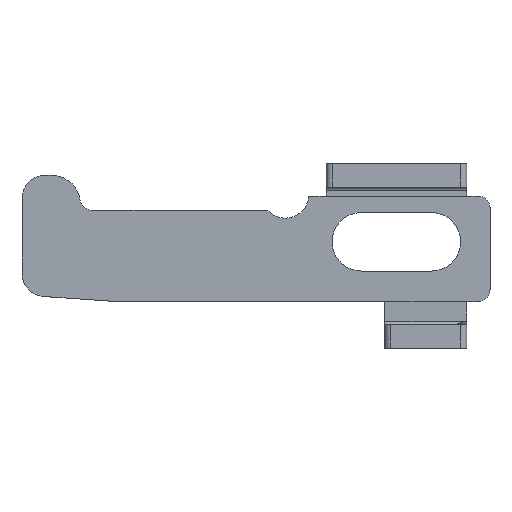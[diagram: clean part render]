
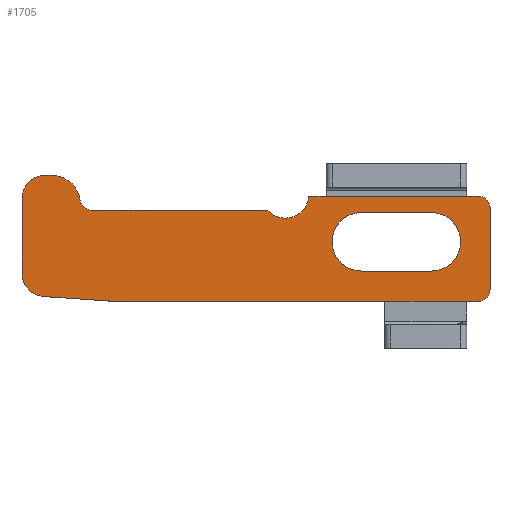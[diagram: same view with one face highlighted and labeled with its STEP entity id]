
A CAD part, top view. The second image highlights one B-rep face of the part: STEP entity #1705.
In plain terms, the highlighted planar face has unit normal (0, 0, 1).
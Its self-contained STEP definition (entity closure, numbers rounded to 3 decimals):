
#1047=AXIS2_PLACEMENT_3D('Circle Axis2P3D',#1045,#1046,$) ;
#1138=AXIS2_PLACEMENT_3D('Circle Axis2P3D',#1136,#1137,$) ;
#1186=AXIS2_PLACEMENT_3D('Circle Axis2P3D',#1184,#1185,$) ;
#1210=AXIS2_PLACEMENT_3D('Circle Axis2P3D',#1208,#1209,$) ;
#1265=AXIS2_PLACEMENT_3D('Circle Axis2P3D',#1263,#1264,$) ;
#1289=AXIS2_PLACEMENT_3D('Circle Axis2P3D',#1287,#1288,$) ;
#1330=AXIS2_PLACEMENT_3D('Circle Axis2P3D',#1328,#1329,$) ;
#1354=AXIS2_PLACEMENT_3D('Circle Axis2P3D',#1352,#1353,$) ;
#1409=AXIS2_PLACEMENT_3D('Circle Axis2P3D',#1407,#1408,$) ;
#1672=AXIS2_PLACEMENT_3D('Plane Axis2P3D',#1669,#1670,#1671) ;
#553=CARTESIAN_POINT('Vertex',(31.,0.,2.)) ;
#608=CARTESIAN_POINT('Vertex',(38.,0.,2.)) ;
#997=CARTESIAN_POINT('Line Origine',(19.5,0.,2.)) ;
#1001=CARTESIAN_POINT('Vertex',(8.,0.,2.)) ;
#1021=CARTESIAN_POINT('Line Origine',(4.93,0.215,2.)) ;
#1025=CARTESIAN_POINT('Vertex',(1.86,0.429,2.)) ;
#1045=CARTESIAN_POINT('Axis2P3D Location',(2.,2.424,2.)) ;
#1049=CARTESIAN_POINT('Vertex',(0.,2.424,2.)) ;
#1069=CARTESIAN_POINT('Line Origine',(0.,5.612,2.)) ;
#1073=CARTESIAN_POINT('Vertex',(0.,8.8,2.)) ;
#1093=CARTESIAN_POINT('Line Origine',(34.5,0.,2.)) ;
#1109=CARTESIAN_POINT('Vertex',(39.,0.,2.)) ;
#1112=CARTESIAN_POINT('Line Origine',(38.5,0.,2.)) ;
#1133=CARTESIAN_POINT('Vertex',(40.,1.,2.)) ;
#1136=CARTESIAN_POINT('Axis2P3D Location',(39.,1.,2.)) ;
#1157=CARTESIAN_POINT('Vertex',(40.,8.,2.)) ;
#1160=CARTESIAN_POINT('Line Origine',(40.,4.5,2.)) ;
#1181=CARTESIAN_POINT('Vertex',(39.,9.,2.)) ;
#1184=CARTESIAN_POINT('Axis2P3D Location',(39.,8.,2.)) ;
#1205=CARTESIAN_POINT('Vertex',(21.,7.8,2.)) ;
#1208=CARTESIAN_POINT('Axis2P3D Location',(22.504,9.119,2.)) ;
#1212=CARTESIAN_POINT('Vertex',(24.5,9.,2.)) ;
#1236=CARTESIAN_POINT('Vertex',(5.964,7.8,2.)) ;
#1239=CARTESIAN_POINT('Line Origine',(13.482,7.8,2.)) ;
#1260=CARTESIAN_POINT('Vertex',(4.974,8.657,2.)) ;
#1263=CARTESIAN_POINT('Axis2P3D Location',(5.964,8.8,2.)) ;
#1284=CARTESIAN_POINT('Vertex',(2.5,10.8,2.)) ;
#1287=CARTESIAN_POINT('Axis2P3D Location',(2.5,8.3,2.)) ;
#1308=CARTESIAN_POINT('Vertex',(2.,10.8,2.)) ;
#1311=CARTESIAN_POINT('Line Origine',(2.25,10.8,2.)) ;
#1328=CARTESIAN_POINT('Axis2P3D Location',(2.,8.8,2.)) ;
#1349=CARTESIAN_POINT('Vertex',(35.,2.6,2.)) ;
#1352=CARTESIAN_POINT('Axis2P3D Location',(35.,5.1,2.)) ;
#1356=CARTESIAN_POINT('Vertex',(35.,7.6,2.)) ;
#1380=CARTESIAN_POINT('Vertex',(29.,2.6,2.)) ;
#1383=CARTESIAN_POINT('Line Origine',(32.,2.6,2.)) ;
#1404=CARTESIAN_POINT('Vertex',(29.,7.6,2.)) ;
#1407=CARTESIAN_POINT('Axis2P3D Location',(29.,5.1,2.)) ;
#1424=CARTESIAN_POINT('Line Origine',(32.,7.6,2.)) ;
#1445=CARTESIAN_POINT('Vertex',(38.,9.,2.)) ;
#1448=CARTESIAN_POINT('Line Origine',(38.5,9.,2.)) ;
#1547=CARTESIAN_POINT('Line Origine',(25.25,9.,2.)) ;
#1551=CARTESIAN_POINT('Vertex',(26.,9.,2.)) ;
#1669=CARTESIAN_POINT('Axis2P3D Location',(0.,0.,2.)) ;
#1674=CARTESIAN_POINT('Line Origine',(20.,9.,2.)) ;
#998=DIRECTION('Vector Direction',(1.,0.,0.)) ;
#1022=DIRECTION('Vector Direction',(0.998,-0.07,0.)) ;
#1046=DIRECTION('Axis2P3D Direction',(0.,0.,1.)) ;
#1070=DIRECTION('Vector Direction',(0.,-1.,0.)) ;
#1094=DIRECTION('Vector Direction',(-1.,0.,0.)) ;
#1113=DIRECTION('Vector Direction',(1.,0.,0.)) ;
#1137=DIRECTION('Axis2P3D Direction',(0.,0.,1.)) ;
#1161=DIRECTION('Vector Direction',(0.,1.,0.)) ;
#1185=DIRECTION('Axis2P3D Direction',(0.,0.,1.)) ;
#1209=DIRECTION('Axis2P3D Direction',(0.,0.,1.)) ;
#1240=DIRECTION('Vector Direction',(1.,0.,0.)) ;
#1264=DIRECTION('Axis2P3D Direction',(0.,0.,1.)) ;
#1288=DIRECTION('Axis2P3D Direction',(0.,0.,1.)) ;
#1312=DIRECTION('Vector Direction',(1.,0.,0.)) ;
#1329=DIRECTION('Axis2P3D Direction',(0.,0.,1.)) ;
#1353=DIRECTION('Axis2P3D Direction',(0.,0.,1.)) ;
#1384=DIRECTION('Vector Direction',(-1.,0.,0.)) ;
#1408=DIRECTION('Axis2P3D Direction',(0.,0.,1.)) ;
#1425=DIRECTION('Vector Direction',(1.,0.,0.)) ;
#1449=DIRECTION('Vector Direction',(-1.,0.,0.)) ;
#1548=DIRECTION('Vector Direction',(-1.,0.,0.)) ;
#1670=DIRECTION('Axis2P3D Direction',(0.,0.,1.)) ;
#1671=DIRECTION('Axis2P3D XDirection',(1.,0.,0.)) ;
#1675=DIRECTION('Vector Direction',(1.,0.,0.)) ;
#999=VECTOR('Line Direction',#998,1.) ;
#1023=VECTOR('Line Direction',#1022,1.) ;
#1071=VECTOR('Line Direction',#1070,1.) ;
#1095=VECTOR('Line Direction',#1094,1.) ;
#1114=VECTOR('Line Direction',#1113,1.) ;
#1162=VECTOR('Line Direction',#1161,1.) ;
#1241=VECTOR('Line Direction',#1240,1.) ;
#1313=VECTOR('Line Direction',#1312,1.) ;
#1385=VECTOR('Line Direction',#1384,1.) ;
#1426=VECTOR('Line Direction',#1425,1.) ;
#1450=VECTOR('Line Direction',#1449,1.) ;
#1549=VECTOR('Line Direction',#1548,1.) ;
#1676=VECTOR('Line Direction',#1675,1.) ;
#1680=ORIENTED_EDGE('',*,*,#1075,.T.) ;
#1681=ORIENTED_EDGE('',*,*,#1051,.F.) ;
#1682=ORIENTED_EDGE('',*,*,#1027,.T.) ;
#1683=ORIENTED_EDGE('',*,*,#1003,.T.) ;
#1684=ORIENTED_EDGE('',*,*,#1097,.F.) ;
#1685=ORIENTED_EDGE('',*,*,#1116,.T.) ;
#1686=ORIENTED_EDGE('',*,*,#1140,.F.) ;
#1687=ORIENTED_EDGE('',*,*,#1164,.T.) ;
#1688=ORIENTED_EDGE('',*,*,#1188,.F.) ;
#1689=ORIENTED_EDGE('',*,*,#1452,.T.) ;
#1690=ORIENTED_EDGE('',*,*,#1678,.F.) ;
#1691=ORIENTED_EDGE('',*,*,#1553,.T.) ;
#1692=ORIENTED_EDGE('',*,*,#1214,.F.) ;
#1693=ORIENTED_EDGE('',*,*,#1243,.F.) ;
#1694=ORIENTED_EDGE('',*,*,#1267,.F.) ;
#1695=ORIENTED_EDGE('',*,*,#1291,.T.) ;
#1696=ORIENTED_EDGE('',*,*,#1315,.F.) ;
#1697=ORIENTED_EDGE('',*,*,#1332,.T.) ;
#1700=ORIENTED_EDGE('',*,*,#1358,.F.) ;
#1701=ORIENTED_EDGE('',*,*,#1387,.T.) ;
#1702=ORIENTED_EDGE('',*,*,#1411,.F.) ;
#1703=ORIENTED_EDGE('',*,*,#1428,.T.) ;
#1704=FACE_BOUND('',#1699,.T.) ;
#1705=ADVANCED_FACE('Body.1',(#1698,#1704),#1673,.T.) ;
#1048=CIRCLE('generated circle',#1047,2.) ;
#1139=CIRCLE('generated circle',#1138,1.) ;
#1187=CIRCLE('generated circle',#1186,1.) ;
#1211=CIRCLE('generated circle',#1210,2.) ;
#1266=CIRCLE('generated circle',#1265,1.) ;
#1290=CIRCLE('generated circle',#1289,2.5) ;
#1331=CIRCLE('generated circle',#1330,2.) ;
#1355=CIRCLE('generated circle',#1354,2.5) ;
#1410=CIRCLE('generated circle',#1409,2.5) ;
#1003=EDGE_CURVE('',#1002,#554,#1000,.T.) ;
#1027=EDGE_CURVE('',#1026,#1002,#1024,.T.) ;
#1051=EDGE_CURVE('',#1026,#1050,#1048,.F.) ;
#1075=EDGE_CURVE('',#1074,#1050,#1072,.T.) ;
#1097=EDGE_CURVE('',#609,#554,#1096,.T.) ;
#1116=EDGE_CURVE('',#609,#1110,#1115,.T.) ;
#1140=EDGE_CURVE('',#1134,#1110,#1139,.F.) ;
#1164=EDGE_CURVE('',#1134,#1158,#1163,.T.) ;
#1188=EDGE_CURVE('',#1182,#1158,#1187,.F.) ;
#1214=EDGE_CURVE('',#1206,#1213,#1211,.T.) ;
#1243=EDGE_CURVE('',#1237,#1206,#1242,.T.) ;
#1267=EDGE_CURVE('',#1261,#1237,#1266,.T.) ;
#1291=EDGE_CURVE('',#1261,#1285,#1290,.T.) ;
#1315=EDGE_CURVE('',#1309,#1285,#1314,.T.) ;
#1332=EDGE_CURVE('',#1309,#1074,#1331,.T.) ;
#1358=EDGE_CURVE('',#1350,#1357,#1355,.T.) ;
#1387=EDGE_CURVE('',#1350,#1381,#1386,.T.) ;
#1411=EDGE_CURVE('',#1405,#1381,#1410,.T.) ;
#1428=EDGE_CURVE('',#1405,#1357,#1427,.T.) ;
#1452=EDGE_CURVE('',#1182,#1446,#1451,.T.) ;
#1553=EDGE_CURVE('',#1552,#1213,#1550,.T.) ;
#1678=EDGE_CURVE('',#1552,#1446,#1677,.T.) ;
#1679=EDGE_LOOP('',(#1680,#1681,#1682,#1683,#1684,#1685,#1686,#1687,#1688,#1689,#1690,#1691,#1692,#1693,#1694,#1695,#1696,#1697)) ;
#1699=EDGE_LOOP('',(#1700,#1701,#1702,#1703)) ;
#1698=FACE_OUTER_BOUND('',#1679,.T.) ;
#1000=LINE('Line',#997,#999) ;
#1024=LINE('Line',#1021,#1023) ;
#1072=LINE('Line',#1069,#1071) ;
#1096=LINE('Line',#1093,#1095) ;
#1115=LINE('Line',#1112,#1114) ;
#1163=LINE('Line',#1160,#1162) ;
#1242=LINE('Line',#1239,#1241) ;
#1314=LINE('Line',#1311,#1313) ;
#1386=LINE('Line',#1383,#1385) ;
#1427=LINE('Line',#1424,#1426) ;
#1451=LINE('Line',#1448,#1450) ;
#1550=LINE('Line',#1547,#1549) ;
#1677=LINE('Line',#1674,#1676) ;
#1673=PLANE('Plane',#1672) ;
#554=VERTEX_POINT('',#553) ;
#609=VERTEX_POINT('',#608) ;
#1002=VERTEX_POINT('',#1001) ;
#1026=VERTEX_POINT('',#1025) ;
#1050=VERTEX_POINT('',#1049) ;
#1074=VERTEX_POINT('',#1073) ;
#1110=VERTEX_POINT('',#1109) ;
#1134=VERTEX_POINT('',#1133) ;
#1158=VERTEX_POINT('',#1157) ;
#1182=VERTEX_POINT('',#1181) ;
#1206=VERTEX_POINT('',#1205) ;
#1213=VERTEX_POINT('',#1212) ;
#1237=VERTEX_POINT('',#1236) ;
#1261=VERTEX_POINT('',#1260) ;
#1285=VERTEX_POINT('',#1284) ;
#1309=VERTEX_POINT('',#1308) ;
#1350=VERTEX_POINT('',#1349) ;
#1357=VERTEX_POINT('',#1356) ;
#1381=VERTEX_POINT('',#1380) ;
#1405=VERTEX_POINT('',#1404) ;
#1446=VERTEX_POINT('',#1445) ;
#1552=VERTEX_POINT('',#1551) ;
